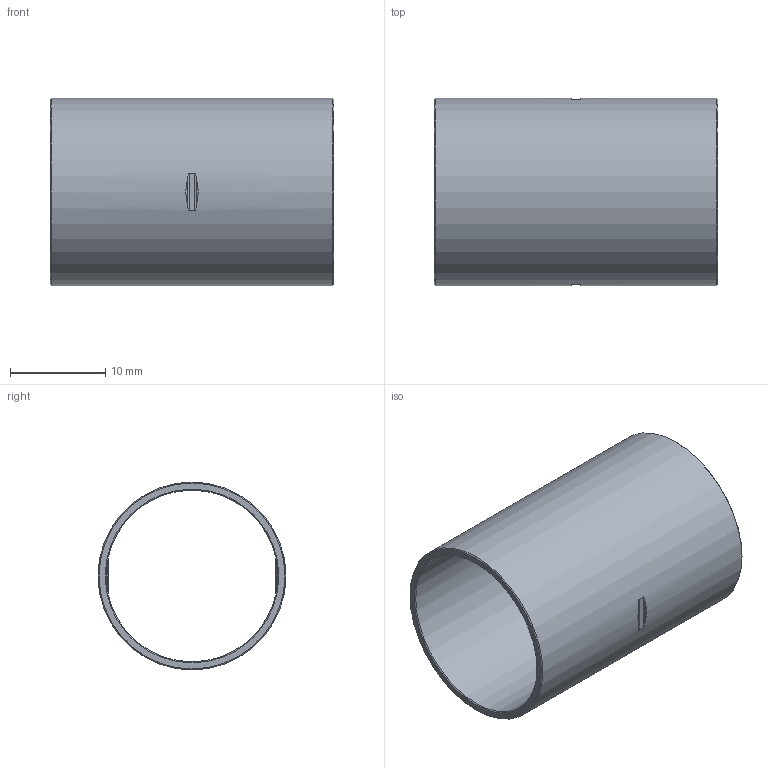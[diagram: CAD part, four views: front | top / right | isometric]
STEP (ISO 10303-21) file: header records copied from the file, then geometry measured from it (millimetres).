
FILE_DESCRIPTION((''),'2;1');
FILE_NAME('G:\SANHA-TERNAT\Technik\Management\Bouwmaten\z-maattekeningen 3D\imate 5000s\15270..._\1527018.stp','2009-10-19T09:09:38',('vdvijverd'),(''),'Autodesk Inventor 2009','Autodesk Inventor 2009','');
FILE_SCHEMA(('AUTOMOTIVE_DESIGN { 1 0 10303 214 1 1 1 1 }'));
Length unit declared in the file: millimetre
Products named in the file (1): 1527018
Bounding box: 29.75 x 19.7 x 19.7 mm (x, y, z)
Volume: 1496.7 mm3; surface area: 3611.6 mm2
Topology: 1 solids, 1 shells, 36 faces, 96 edges, 64 vertices
Faces by surface type: bspline 14, cylinder 10, plane 8, cone 4
Full cylindrical faces by diameter (mm): 18 x1, 19.7 x1
Entity records: 1370 total; most frequent: CARTESIAN_POINT 559, ORIENTED_EDGE 176, DIRECTION 126, EDGE_CURVE 88, VERTEX_POINT 64, EDGE_LOOP 48, AXIS2_PLACEMENT_3D 47, FACE_OUTER_BOUND 36
